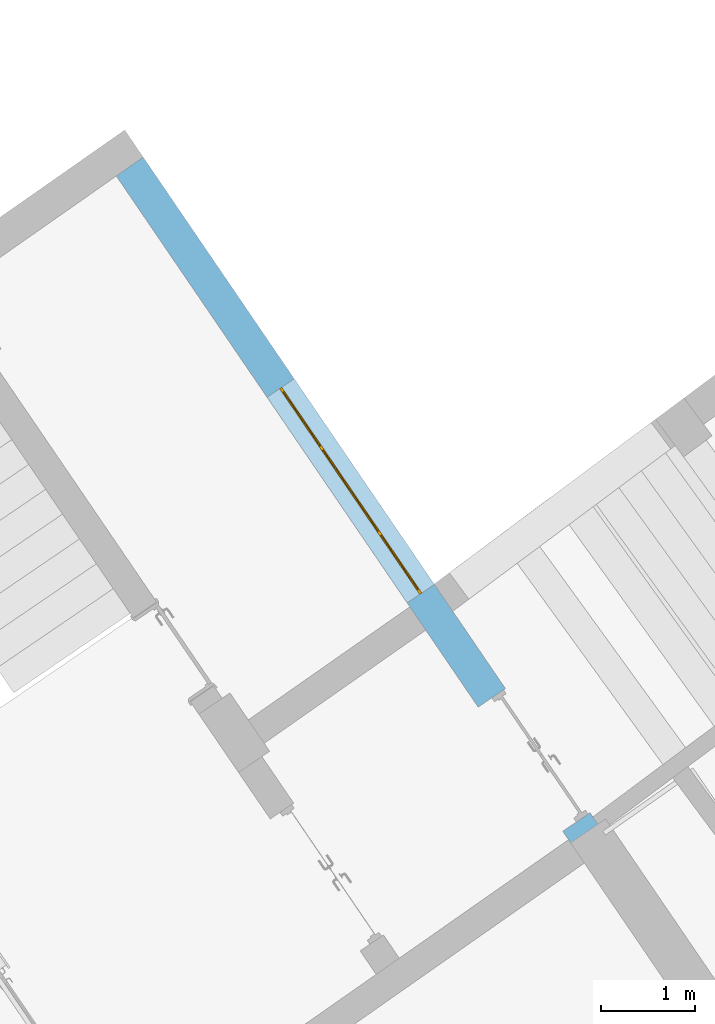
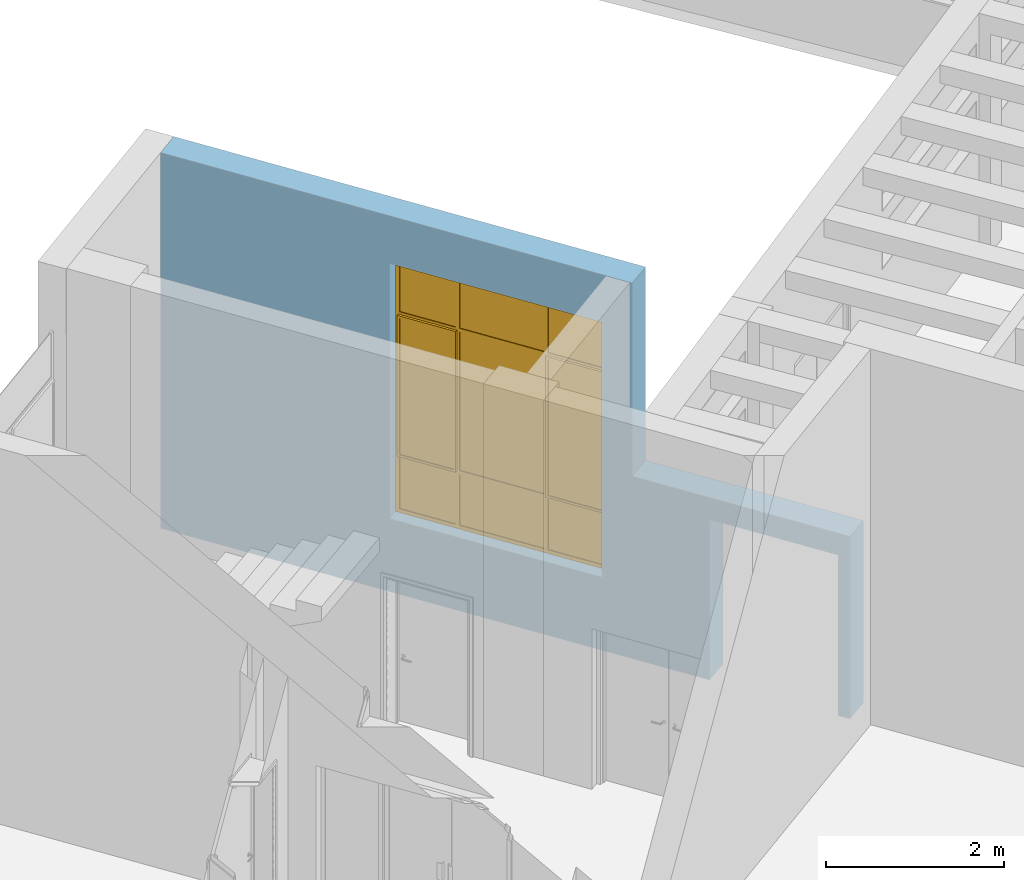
# One storey, part 133 of 157: 1 window, 2 openings, plus 1 element that does not belong to this part.
"""IFC2X3 building model written with IfcOpenShell, lengths in millimetres."""

from ifc_helpers import new_model, entity, si_unit, converted_unit, derived_unit, direction, frame, frame_2d, origin, origin_2d_with_axis, place, context, subcontext, project, spatial, polyline, rectangle, outline, extrude, faceted_brep, source, transform, mapped, material, material_list, layer, layer_set, type_object, type_shapes, element, fill, save


model = new_model("IFC2X3")

# Units and contexts
model_context = context("Model", 3, precision=0.01, world=origin(), true_north=direction((6.123031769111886e-17, 1.0)))
body_context = subcontext(model_context, "Body", "Model", "MODEL_VIEW")
ifc_project = project(units=[si_unit("LENGTHUNIT", "METRE", prefix="MILLI"), si_unit("AREAUNIT", "SQUARE_METRE"), si_unit("VOLUMEUNIT", "CUBIC_METRE"), converted_unit("PLANEANGLEUNIT", "DEGREE", entity("IfcRatioMeasure", 0.017453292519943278), si_unit("PLANEANGLEUNIT", "RADIAN"), dimensions=[0, 0, 0, 0, 0, 0, 0]), si_unit("MASSUNIT", "GRAM", prefix="KILO"), derived_unit("MASSDENSITYUNIT", [(si_unit("MASSUNIT", "GRAM", prefix="KILO"), 1), (si_unit("LENGTHUNIT", "METRE"), -3)]), derived_unit("MOMENTOFINERTIAUNIT", [(si_unit("LENGTHUNIT", "METRE"), 4)]), si_unit("TIMEUNIT", "SECOND"), si_unit("FREQUENCYUNIT", "HERTZ"), si_unit("THERMODYNAMICTEMPERATUREUNIT", "DEGREE_CELSIUS"), derived_unit("THERMALTRANSMITTANCEUNIT", [(si_unit("MASSUNIT", "GRAM", prefix="KILO"), 1), (si_unit("THERMODYNAMICTEMPERATUREUNIT", "KELVIN"), -1), (si_unit("TIMEUNIT", "SECOND"), -3)]), derived_unit("THERMALCONDUCTANCEUNIT", [(si_unit("MASSUNIT", "GRAM", prefix="KILO"), 1), (si_unit("LENGTHUNIT", "METRE"), 1), (si_unit("THERMODYNAMICTEMPERATUREUNIT", "KELVIN"), -1), (si_unit("TIMEUNIT", "SECOND"), -3)]), derived_unit("VOLUMETRICFLOWRATEUNIT", [(si_unit("LENGTHUNIT", "METRE"), 3), (si_unit("TIMEUNIT", "SECOND"), -1)]), derived_unit("MASSFLOWRATEUNIT", [(si_unit("MASSUNIT", "GRAM", prefix="KILO"), 1), (si_unit("TIMEUNIT", "SECOND"), -1)]), derived_unit("ROTATIONALFREQUENCYUNIT", [(si_unit("TIMEUNIT", "SECOND"), -1)]), si_unit("ELECTRICCURRENTUNIT", "AMPERE"), si_unit("ELECTRICVOLTAGEUNIT", "VOLT"), si_unit("POWERUNIT", "WATT"), converted_unit("FORCEUNIT", "KIP", entity("IfcRatioMeasure", 2.088543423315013e-05), si_unit("FORCEUNIT", "NEWTON"), dimensions=[1, 1, -2, 0, 0, 0, 0]), si_unit("ILLUMINANCEUNIT", "LUX"), si_unit("LUMINOUSFLUXUNIT", "LUMEN"), si_unit("LUMINOUSINTENSITYUNIT", "CANDELA"), derived_unit("USERDEFINED", [(si_unit("MASSUNIT", "GRAM", prefix="KILO"), -1), (si_unit("LENGTHUNIT", "METRE"), -2), (si_unit("TIMEUNIT", "SECOND"), 3), (si_unit("LUMINOUSFLUXUNIT", "LUMEN"), 1)]), derived_unit("USERDEFINED", [(si_unit("MASSUNIT", "GRAM", prefix="KILO"), 1), (si_unit("LENGTHUNIT", "METRE"), 3), (si_unit("TIMEUNIT", "SECOND"), -3), (si_unit("ELECTRICCURRENTUNIT", "AMPERE"), -2)]), derived_unit("USERDEFINED", [(si_unit("LENGTHUNIT", "METRE"), 2), (si_unit("TIMEUNIT", "SECOND"), -2)]), derived_unit("SOUNDPOWERUNIT", [(si_unit("MASSUNIT", "GRAM", prefix="KILO"), 1), (si_unit("LENGTHUNIT", "METRE"), 2), (si_unit("TIMEUNIT", "SECOND"), -3)]), derived_unit("SOUNDPRESSUREUNIT", [(si_unit("MASSUNIT", "GRAM", prefix="KILO"), 1), (si_unit("LENGTHUNIT", "METRE"), -1), (si_unit("TIMEUNIT", "SECOND"), -2)]), derived_unit("LINEARVELOCITYUNIT", [(si_unit("LENGTHUNIT", "METRE"), 1), (si_unit("TIMEUNIT", "SECOND"), -1)]), si_unit("PRESSUREUNIT", "PASCAL"), derived_unit("USERDEFINED", [(si_unit("LENGTHUNIT", "METRE"), -2), (si_unit("MASSUNIT", "GRAM", prefix="KILO"), 1), (si_unit("TIMEUNIT", "SECOND"), -2)]), derived_unit("LINEARFORCEUNIT", [(si_unit("MASSUNIT", "GRAM", prefix="KILO"), 1), (si_unit("LENGTHUNIT", "METRE"), 1), (si_unit("TIMEUNIT", "SECOND"), -2), (si_unit("LENGTHUNIT", "METRE"), -1)]), derived_unit("PLANARFORCEUNIT", [(si_unit("MASSUNIT", "GRAM", prefix="KILO"), 1), (si_unit("LENGTHUNIT", "METRE"), 1), (si_unit("TIMEUNIT", "SECOND"), -2), (si_unit("LENGTHUNIT", "METRE"), -2)]), derived_unit("SPECIFICHEATCAPACITYUNIT", [(si_unit("LENGTHUNIT", "METRE"), 2), (si_unit("TIMEUNIT", "SECOND"), -2), (si_unit("THERMODYNAMICTEMPERATUREUNIT", "KELVIN"), -1)]), derived_unit("VAPORPERMEABILITYUNIT", [(si_unit("TIMEUNIT", "SECOND"), 1), (si_unit("LENGTHUNIT", "METRE"), -1)]), derived_unit("DYNAMICVISCOSITYUNIT", [(si_unit("MASSUNIT", "GRAM", prefix="KILO"), 1), (si_unit("LENGTHUNIT", "METRE"), -1), (si_unit("TIMEUNIT", "SECOND"), -1)]), derived_unit("THERMALEXPANSIONCOEFFICIENTUNIT", [(si_unit("THERMODYNAMICTEMPERATUREUNIT", "KELVIN"), -1)])], contexts=[model_context])

# Site, building, storey
site_placement = place(None, frame((0.0, 0.0, 0.0), z_axis=(0.0, 0.0, 1.0), x_axis=(0.8191520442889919, 0.5735764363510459, 0.0)))
site = spatial("IfcSite", under=ifc_project, at=site_placement, Name="Default", CompositionType="ELEMENT")
building_placement = place(site_placement, origin())
building = spatial("IfcBuilding", under=site, at=building_placement, CompositionType="ELEMENT")
storey_placement = place(building_placement, origin())
storey = spatial("IfcBuildingStorey", under=building, at=storey_placement, Name="1.EG +0.00", CompositionType="ELEMENT", Elevation=-4.331468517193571e-12)

# Wall, openings, window
ifc_material_1 = material(Name="Analytical Wall Surface_CJC")
ifc_layer = layer(ifc_material_1, 350.0)
ifc_layer_set = layer_set([ifc_layer], Name="Basic Wall:Wand_Aussen_35")
wall_type = type_object("IfcWallType", Name="Basic Wall:Wand_Aussen_35", PredefinedType="STANDARD", material=ifc_layer_set)
wall_placement = place(storey_placement, frame((-204196.46004691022, 172673.58659219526, 0.0), z_axis=(0.0, 0.0, 1.0), x_axis=(-0.012729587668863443, -0.999918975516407, 0.0)))
wall = element("IfcWall", 1, at=wall_placement, inside=storey, type_object=wall_type, Name="Basic Wall:Wand_Aussen_35", ObjectType="Basic Wall:Wand_Aussen_35", context=body_context, shape_type="Brep", body=[
    faceted_brep([(8595.856456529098, -175.0, 0.0), (8595.856456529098, -175.0, 2500.0), (5881.66384228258, -175.0, 2500.0), (5881.66384228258, -175.0, 5150.0), (5854.929748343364, -175.0, 5150.0), (5554.905439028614, -175.0, 5150.0), (4.455716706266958, -175.0, 5150.0), (4.455716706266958, -175.0, 0.0), (5554.905439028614, -175.0, 0.0), (5854.929748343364, -175.0, 0.0), (6846.354526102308, -175.0, 0.0), (6846.354526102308, -175.0, 2200.0), (8446.354526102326, -175.0, 2200.0), (8446.354526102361, -175.0, 0.0), (8555.148532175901, -175.0, 0.0), (2854.6866551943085, -175.0, 1000.0), (2854.6866551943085, -175.0, 4500.0), (5504.686655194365, -175.0, 4500.0), (5504.686655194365, -175.0, 1000.0), (8595.856456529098, 175.0, 2500.0), (8595.856456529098, 175.0, 0.0), (8446.354526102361, 175.0, 0.0), (8446.354526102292, 175.0, 2200.0), (6846.354526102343, 175.0, 2200.0), (6846.354526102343, 175.0, 0.0), (5850.752921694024, 175.0, 0.0), (5500.445670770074, 175.0, 0.0), (0.0, 175.0, 0.0), (0.0, 175.0, 5150.0), (5881.66384228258, 175.0, 5150.0), (5881.66384228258, 175.0, 2500.0), (8500.6887639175, 175.0, 2500.0), (2854.686655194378, 175.0, 1000.0), (5504.686655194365, 175.0, 1000.0), (5504.686655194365, 175.0, 4500.0), (2854.686655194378, 175.0, 4500.0)], [[[0, 1, 2, 3, 4, 5, 6, 7, 8, 9, 10, 11, 12, 13, 14], [15, 16, 17, 18]], [[19, 20, 21, 22, 23, 24, 25, 26, 27, 28, 29, 30, 31], [32, 33, 34, 35]], [[7, 6, 28, 27]], [[12, 22, 21, 13]], [[22, 12, 11, 23]], [[23, 11, 10, 24]], [[7, 27, 26, 25, 24, 10, 9, 8]], [[1, 0, 20, 19]], [[6, 5, 4, 3, 29, 28]], [[2, 1, 19, 31, 30]], [[3, 2, 30, 29]], [[16, 15, 32, 35]], [[17, 16, 35, 34]], [[18, 17, 34, 33]], [[15, 18, 33, 32]], [[20, 0, 14, 13, 21]]]),
])
opening_1_placement = place(wall_placement, frame((6846.354526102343, -175.0, 0.0)))
element("IfcOpeningElement", 2, at=opening_1_placement, cuts=wall, Name="M_Door-Passage-Double-Flush:150x210:1", ObjectType="Opening", context=body_context, shape_type="SweptSolid", body=[
    extrude(rectangle(XDim=2200.0, YDim=1599.999999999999, at=frame_2d((1100.0, 799.9999999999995), x_axis=(1.0, 0.0))), frame((0.0, 0.0, 0.0), z_axis=(0.0, 1.0, 0.0), x_axis=(0.0, 0.0, 1.0)), (0.0, 0.0, 1.0), 350.0),
])
opening_2_placement = place(wall_placement, frame((2854.6866551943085, -175.0, 1000.0)))
opening_2 = element("IfcOpeningElement", 3, at=opening_2_placement, cuts=wall, Name="Fenster_Aussen_CJC:Fenster_Aussen_CJC_265x350:1", ObjectType="Opening", context=body_context, shape_type="SweptSolid", body=[
    extrude(rectangle(XDim=3499.999999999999, YDim=2650.0, at=frame_2d((1749.9999999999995, 1325.000000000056), x_axis=(1.0, 0.0))), frame((0.0, 0.0, 0.0), z_axis=(0.0, 1.0, 0.0), x_axis=(0.0, 0.0, 1.0)), (0.0, 0.0, 1.0), 350.0),
])
ifc_material_2 = material(Name="Glass")
ifc_material_3 = material(Name="<Unnamed>")
ifc_material_list = material_list([ifc_material_2, ifc_material_3])
window_style = type_object("IfcWindowStyle", Name="Fenster_Aussen_CJC:Fenster_Aussen_CJC_265x350", ConstructionType="NOTDEFINED", OperationType="NOTDEFINED", ParameterTakesPrecedence=False, Sizeable=False, material=ifc_material_list)
shared_shape = source(origin(), body_context, "Body", "SweptSolid", [
    extrude(rectangle(XDim=9.999999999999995, YDim=700.0000000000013, at=frame_2d((0.0, -5.684341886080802e-14), x_axis=(1.0, 0.0))), frame((400.0, 175.0, 2750.0), z_axis=(0.0, 0.0, 1.0), x_axis=(0.0, 1.0, 0.0)), (0.0, 0.0, 1.0), 700.0000000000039),
    extrude(rectangle(XDim=9.999999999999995, YDim=700.0000000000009, at=frame_2d((0.0, -1.4210854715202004e-13), x_axis=(1.0, 0.0))), frame((2250.0, 175.0, 2750.0), z_axis=(0.0, 0.0, 1.0), x_axis=(0.0, 1.0, 0.0)), (0.0, 0.0, 1.0), 699.9999999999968),
    extrude(rectangle(XDim=9.999999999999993, YDim=1050.0000000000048, at=frame_2d((0.0, -1.1368683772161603e-13), x_axis=(1.0, 0.0))), frame((1325.0, 175.0, 2750.0), z_axis=(0.0, 0.0, 1.0), x_axis=(0.0, 1.0, 0.0)), (0.0, 0.0, 1.0), 699.9999999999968),
    extrude(rectangle(XDim=9.999999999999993, YDim=1050.00000000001, at=origin_2d_with_axis()), frame((1325.0, 175.0, 800.0), z_axis=(0.0, 0.0, 1.0), x_axis=(0.0, 1.0, 0.0)), (0.0, 0.0, 1.0), 1899.9999999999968),
    extrude(rectangle(XDim=9.999999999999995, YDim=699.9999999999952, at=origin_2d_with_axis()), frame((2250.0, 175.0, 50.0), z_axis=(0.0, 0.0, 1.0), x_axis=(0.0, 1.0, 0.0)), (0.0, 0.0, 1.0), 700.0),
    extrude(rectangle(XDim=9.999999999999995, YDim=700.0000000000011, at=origin_2d_with_axis()), frame((400.0, 175.0, 50.0), z_axis=(0.0, 0.0, 1.0), x_axis=(0.0, 1.0, 0.0)), (0.0, 0.0, 1.0), 699.9999999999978),
    extrude(rectangle(XDim=9.999999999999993, YDim=1050.00000000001, at=origin_2d_with_axis()), frame((1325.0, 175.0, 50.0), z_axis=(0.0, 0.0, 1.0), x_axis=(0.0, 1.0, 0.0)), (0.0, 0.0, 1.0), 699.9999999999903),
    extrude(rectangle(XDim=9.999999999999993, YDim=670.0000000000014, at=frame_2d((2.220446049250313e-15, -5.684341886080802e-14), x_axis=(1.0, 0.0))), frame((400.0, 145.0, 815.0), z_axis=(0.0, 0.0, 1.0), x_axis=(0.0, 1.0, 0.0)), (0.0, 0.0, 1.0), 1870.0000000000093),
    extrude(rectangle(XDim=9.999999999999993, YDim=670.0000000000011, at=frame_2d((0.0, -1.4210854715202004e-13), x_axis=(1.0, 0.0))), frame((2250.0, 145.0, 815.0), z_axis=(0.0, 0.0, 1.0), x_axis=(0.0, 1.0, 0.0)), (0.0, 0.0, 1.0), 1870.0000000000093),
    extrude(outline(polyline([(-365.0, -965.0), (365.0, -965.0), (365.0, 965.0), (-365.0, 965.0), (-365.0, -965.0)]), holes=[polyline([(-335.0, -935.0), (-335.0, 935.0), (335.0, 935.0), (335.0, -935.0), (-335.0, -935.0)])]), frame((2250.0, 130.0, 1750.0), z_axis=(0.0, 1.0, 0.0), x_axis=(1.0, 0.0, 0.0)), (0.0, 0.0, 1.0), 29.999999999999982),
    extrude(outline(polyline([(-365.0, -965.0), (365.0, -965.0), (365.0, 965.0), (-365.0, 965.0), (-365.0, -965.0)]), holes=[polyline([(-335.0, -935.0), (-335.0, 935.0), (335.0, 935.0), (335.0, -935.0), (-335.0, -935.0)])]), frame((400.0, 130.0, 1750.0), z_axis=(0.0, 1.0, 0.0), x_axis=(1.0, 0.0, 0.0)), (0.0, 0.0, 1.0), 29.999999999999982),
    extrude(outline(polyline([(-1325.0, -1750.0), (1325.0, -1750.0), (1325.0, 1750.0), (-1325.0, 1750.0), (-1325.0, -1750.0)]), holes=[polyline([(-575.0, -950.0), (-1275.0, -950.0), (-1275.0, 950.0), (-575.0, 950.0), (-575.0, -950.0)]), polyline([(1275.0, -950.0), (575.0, -950.0), (575.0, 950.0), (1275.0, 950.0), (1275.0, -950.0)]), polyline([(575.0, -1700.0), (575.0, -1000.0), (1275.0, -1000.0), (1275.0, -1700.0), (575.0, -1700.0)]), polyline([(-525.0, -1000.0), (525.0, -1000.0), (525.0, -1700.0), (-525.0, -1700.0), (-525.0, -1000.0)]), polyline([(-1275.0, -1700.0), (-1275.0, -1000.0), (-575.0, -1000.0), (-575.0, -1700.0), (-1275.0, -1700.0)]), polyline([(-1275.0, 1000.0), (-1275.0, 1700.0), (-575.0, 1700.0), (-575.0, 1000.0), (-1275.0, 1000.0)]), polyline([(-525.0, 1000.0), (-525.0, 1700.0), (525.0, 1700.0), (525.0, 1000.0), (-525.0, 1000.0)]), polyline([(1275.0, 1700.0), (1275.0, 1000.0), (575.0, 1000.0), (575.0, 1700.0), (1275.0, 1700.0)]), polyline([(525.0, 950.0), (525.0, -950.0), (-525.0, -950.0), (-525.0, 950.0), (525.0, 950.0)])]), frame((1325.0, 160.0, 1750.0), z_axis=(0.0, 1.0, 0.0), x_axis=(1.0, 0.0, 0.0)), (0.0, 0.0, 1.0), 30.000000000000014),
])
type_shapes(window_style, [shared_shape])
window_placement = place(opening_2_placement, origin())
window = element("IfcWindow", 4, at=window_placement, inside=storey, type_object=window_style, material=ifc_material_list, Name="Fenster_Aussen_CJC:Fenster_Aussen_CJC_265x350", ObjectType="Fenster_Aussen_CJC:Fenster_Aussen_CJC_265x350", OverallHeight=3499.999999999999, OverallWidth=2650.000000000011, context=body_context, shape_type="MappedRepresentation", body=[
    mapped(shared_shape, transform((0.0, 0.0, 0.0), scale=1.0)),
])
fill(opening_2, window)

save(model, "model.ifc")
